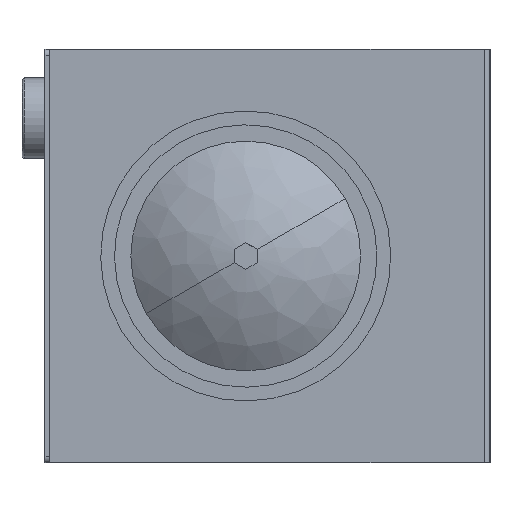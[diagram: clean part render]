
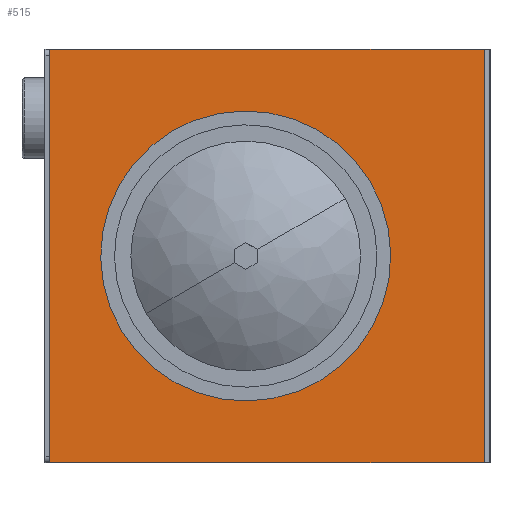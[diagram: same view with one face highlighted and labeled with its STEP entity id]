
A CAD part, left-side view. The second image highlights one B-rep face of the part: STEP entity #515.
In plain terms, the highlighted planar face has unit normal (-1, 0, 0) as drawn and (1, 0, 0) by its records, which use the part's own axes.
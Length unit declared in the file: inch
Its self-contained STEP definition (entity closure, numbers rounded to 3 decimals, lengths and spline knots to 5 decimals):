
#25 = EDGE_CURVE ( 'NONE', #8796, #5350, #5189, .T. ) ;
#174 = FACE_BOUND ( 'NONE', #4595, .T. ) ;
#501 = DIRECTION ( 'NONE',  ( 0., -1., 0. ) ) ;
#515 = ADVANCED_FACE ( 'NONE', ( #174, #9001 ), #1263, .F. ) ;
#658 = DIRECTION ( 'NONE',  ( 1., 0., 0. ) ) ;
#999 = EDGE_CURVE ( 'NONE', #2745, #8055, #3196, .T. ) ;
#1105 = CARTESIAN_POINT ( 'NONE',  ( 0., 9.59375, 9. ) ) ;
#1156 = ORIENTED_EDGE ( 'NONE', *, *, #5504, .T. ) ;
#1263 = PLANE ( 'NONE',  #3968 ) ;
#1555 = VERTEX_POINT ( 'NONE', #2323 ) ;
#1781 = CARTESIAN_POINT ( 'NONE',  ( 0., 9.59375, 9. ) ) ;
#2016 = EDGE_CURVE ( 'NONE', #8055, #8796, #5613, .T. ) ;
#2131 = ORIENTED_EDGE ( 'NONE', *, *, #999, .T. ) ;
#2323 = CARTESIAN_POINT ( 'NONE',  ( 0., 1.04075, -5. ) ) ;
#2373 = CARTESIAN_POINT ( 'NONE',  ( 0., 9.59375, -9. ) ) ;
#2745 = VERTEX_POINT ( 'NONE', #2373 ) ;
#3196 = LINE ( 'NONE', #1105, #8549 ) ;
#3303 = CARTESIAN_POINT ( 'NONE',  ( 0., 0., 0. ) ) ;
#3653 = DIRECTION ( 'NONE',  ( 1., 0., 0. ) ) ;
#3967 = CARTESIAN_POINT ( 'NONE',  ( 0., -9.59375, 9. ) ) ;
#3968 = AXIS2_PLACEMENT_3D ( 'NONE', #3303, #5420, #6130 ) ;
#4065 = CARTESIAN_POINT ( 'NONE',  ( 0., -9.34375, 9. ) ) ;
#4217 = ORIENTED_EDGE ( 'NONE', *, *, #4506, .F. ) ;
#4268 = DIRECTION ( 'NONE',  ( 0., 1., 0. ) ) ;
#4506 = EDGE_CURVE ( 'NONE', #1555, #7284, #7956, .T. ) ;
#4595 = EDGE_LOOP ( 'NONE', ( #4217, #7388 ) ) ;
#4835 = CARTESIAN_POINT ( 'NONE',  ( 0., 1.04075, 0. ) ) ;
#5045 = VECTOR ( 'NONE', #4268, 39.37008 ) ;
#5129 = ORIENTED_EDGE ( 'NONE', *, *, #25, .T. ) ;
#5189 = LINE ( 'NONE', #4065, #7027 ) ;
#5282 = DIRECTION ( 'NONE',  ( 0., 0., -1. ) ) ;
#5319 = CIRCLE ( 'NONE', #6151, 5. ) ;
#5350 = VERTEX_POINT ( 'NONE', #6831 ) ;
#5420 = DIRECTION ( 'NONE',  ( -1., 0., 0. ) ) ;
#5504 = EDGE_CURVE ( 'NONE', #5350, #2745, #6883, .T. ) ;
#5537 = DIRECTION ( 'NONE',  ( 0., 0., -1. ) ) ;
#5613 = LINE ( 'NONE', #3967, #7222 ) ;
#5971 = EDGE_LOOP ( 'NONE', ( #5129, #1156, #2131, #7275 ) ) ;
#6130 = DIRECTION ( 'NONE',  ( 0., 0., 1. ) ) ;
#6151 = AXIS2_PLACEMENT_3D ( 'NONE', #4835, #658, #5537 ) ;
#6673 = DIRECTION ( 'NONE',  ( 0., 0., 1. ) ) ;
#6831 = CARTESIAN_POINT ( 'NONE',  ( 0., -9.34375, -9. ) ) ;
#6883 = LINE ( 'NONE', #8435, #5045 ) ;
#7027 = VECTOR ( 'NONE', #5282, 39.37008 ) ;
#7222 = VECTOR ( 'NONE', #501, 39.37008 ) ;
#7268 = EDGE_CURVE ( 'NONE', #7284, #1555, #5319, .T. ) ;
#7275 = ORIENTED_EDGE ( 'NONE', *, *, #2016, .T. ) ;
#7284 = VERTEX_POINT ( 'NONE', #9017 ) ;
#7388 = ORIENTED_EDGE ( 'NONE', *, *, #7268, .F. ) ;
#7611 = CARTESIAN_POINT ( 'NONE',  ( 0., -9.34375, 9. ) ) ;
#7807 = CARTESIAN_POINT ( 'NONE',  ( 0., 1.04075, 0. ) ) ;
#7890 = AXIS2_PLACEMENT_3D ( 'NONE', #7807, #3653, #8537 ) ;
#7956 = CIRCLE ( 'NONE', #7890, 5. ) ;
#8055 = VERTEX_POINT ( 'NONE', #1781 ) ;
#8435 = CARTESIAN_POINT ( 'NONE',  ( 0., -9.59375, -9. ) ) ;
#8537 = DIRECTION ( 'NONE',  ( 0., 0., -1. ) ) ;
#8549 = VECTOR ( 'NONE', #6673, 39.37008 ) ;
#8796 = VERTEX_POINT ( 'NONE', #7611 ) ;
#9001 = FACE_OUTER_BOUND ( 'NONE', #5971, .T. ) ;
#9017 = CARTESIAN_POINT ( 'NONE',  ( 0., 1.04075, 5. ) ) ;
